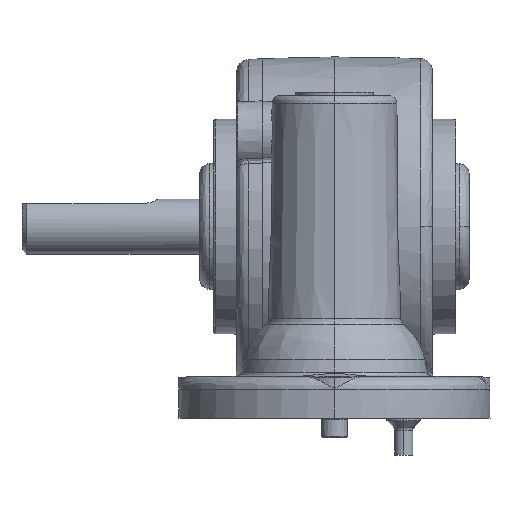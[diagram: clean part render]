
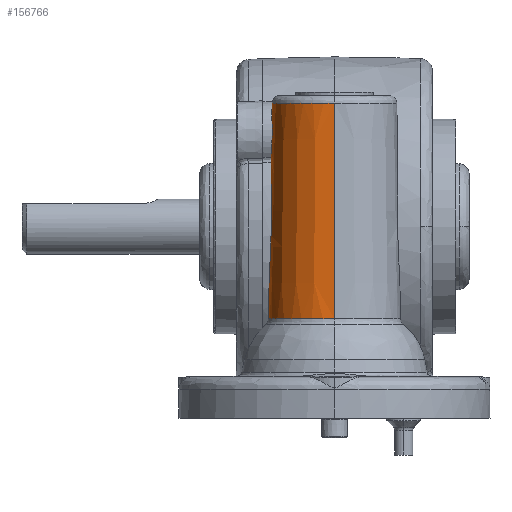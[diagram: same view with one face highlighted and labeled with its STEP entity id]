
A CAD part, front view. The second image highlights one B-rep face of the part: STEP entity #156766.
In plain terms, the highlighted conical face has half-angle 0.981 degrees and reference radius 10.784 mm.
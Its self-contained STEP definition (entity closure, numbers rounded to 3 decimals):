
#217 = VERTEX_POINT ( 'NONE', #82026 ) ;
#2080 = ORIENTED_EDGE ( 'NONE', *, *, #138192, .T. ) ;
#2755 = CARTESIAN_POINT ( 'NONE',  ( -10.705, -25.4, -10.42 ) ) ;
#3544 = CARTESIAN_POINT ( 'NONE',  ( -10.359, -26.062, 8.705 ) ) ;
#4385 = CARTESIAN_POINT ( 'NONE',  ( -10.267, -26.342, 12.667 ) ) ;
#7362 = CARTESIAN_POINT ( 'NONE',  ( -10.333, -25.463, 11.246 ) ) ;
#7903 = DIRECTION ( 'NONE',  ( -0.017, 0., -1. ) ) ;
#8964 = CARTESIAN_POINT ( 'NONE',  ( -10.334, -25.439, 11.211 ) ) ;
#10643 = ORIENTED_EDGE ( 'NONE', *, *, #27218, .T. ) ;
#12880 = DIRECTION ( 'NONE',  ( 0., 0., -1. ) ) ;
#15884 = VERTEX_POINT ( 'NONE', #69864 ) ;
#16567 = CARTESIAN_POINT ( 'NONE',  ( -10.314, -25.885, 11.803 ) ) ;
#16880 = CARTESIAN_POINT ( 'NONE',  ( -10.478, -25.4, 2.845 ) ) ;
#17374 = CARTESIAN_POINT ( 'NONE',  ( -10.174, -26.766, 15.231 ) ) ;
#18245 = CARTESIAN_POINT ( 'NONE',  ( -10.335, -25.417, 11.173 ) ) ;
#19574 = CARTESIAN_POINT ( 'NONE',  ( -10.335, -25.417, 11.173 ) ) ;
#20584 = CARTESIAN_POINT ( 'NONE',  ( -10.211, -25.81, 17.979 ) ) ;
#22236 = AXIS2_PLACEMENT_3D ( 'NONE', #121977, #37246, #160963 ) ;
#27218 = EDGE_CURVE ( 'NONE', #64243, #117733, #114725, .T. ) ;
#27236 = VERTEX_POINT ( 'NONE', #93297 ) ;
#29532 = CARTESIAN_POINT ( 'NONE',  ( -10.291, -27.466, 1.751 ) ) ;
#36929 = ORIENTED_EDGE ( 'NONE', *, *, #112439, .T. ) ;
#37214 = DIRECTION ( 'NONE',  ( 0., -1., 0. ) ) ;
#37246 = DIRECTION ( 'NONE',  ( 0., 0., -1. ) ) ;
#40030 = DIRECTION ( 'NONE',  ( 0., -0.017, -1. ) ) ;
#40499 = EDGE_CURVE ( 'NONE', #83460, #27236, #119387, .T. ) ;
#41739 = CARTESIAN_POINT ( 'NONE',  ( -10.234, -26.562, 13.288 ) ) ;
#42483 = CARTESIAN_POINT ( 'NONE',  ( -10.338, -27.462, -0.918 ) ) ;
#46353 = DIRECTION ( 'NONE',  ( 0., 0., 1. ) ) ;
#52107 = EDGE_CURVE ( 'NONE', #68924, #81610, #58520, .T. ) ;
#53867 = CARTESIAN_POINT ( 'NONE',  ( -10.299, -27.296, 3.51 ) ) ;
#54181 = EDGE_CURVE ( 'NONE', #60827, #15884, #90434, .T. ) ;
#58520 = B_SPLINE_CURVE_WITH_KNOTS ( 'NONE', 3,
 ( #18245, #67738, #145105, #144288 ),
 .UNSPECIFIED., .F., .F.,
 ( 4, 4 ),
 ( 0., 1. ),
 .UNSPECIFIED. ) ;
#60827 = VERTEX_POINT ( 'NONE', #98099 ) ;
#64243 = VERTEX_POINT ( 'NONE', #142475 ) ;
#65510 = ORIENTED_EDGE ( 'NONE', *, *, #52107, .T. ) ;
#66185 = AXIS2_PLACEMENT_3D ( 'NONE', #83042, #12880, #37214 ) ;
#66799 = EDGE_LOOP ( 'NONE', ( #128126, #2080, #87396, #70434, #129673, #65510, #68438, #10643, #36929 ) ) ;
#66906 = CARTESIAN_POINT ( 'NONE',  ( -10.173, -26.733, 15.555 ) ) ;
#67180 = CARTESIAN_POINT ( 'NONE',  ( -10.784, -25.4, -15.072 ) ) ;
#67738 = CARTESIAN_POINT ( 'NONE',  ( -10.339, -25.42, 10.909 ) ) ;
#68438 = ORIENTED_EDGE ( 'NONE', *, *, #90667, .F. ) ;
#68924 = VERTEX_POINT ( 'NONE', #102924 ) ;
#69864 = CARTESIAN_POINT ( 'NONE',  ( 0., -36.184, -15.072 ) ) ;
#70434 = ORIENTED_EDGE ( 'NONE', *, *, #111362, .F. ) ;
#79078 = CARTESIAN_POINT ( 'NONE',  ( -10.343, -26.574, 6.987 ) ) ;
#79117 = CARTESIAN_POINT ( 'NONE',  ( -10.194, -26.749, 14.245 ) ) ;
#79883 = CARTESIAN_POINT ( 'NONE',  ( -10.466, -27.109, -4.465 ) ) ;
#81610 = VERTEX_POINT ( 'NONE', #130927 ) ;
#82026 = CARTESIAN_POINT ( 'NONE',  ( -10.333, -25.491, 11.28 ) ) ;
#82353 = CARTESIAN_POINT ( 'NONE',  ( -10.195, -26.288, 17.127 ) ) ;
#83042 = CARTESIAN_POINT ( 'NONE',  ( 0., -25.4, 20.139 ) ) ;
#83460 = VERTEX_POINT ( 'NONE', #110656 ) ;
#84456 = FACE_OUTER_BOUND ( 'NONE', #66799, .T. ) ;
#85566 = CARTESIAN_POINT ( 'NONE',  ( -10.202, -26.145, 17.42 ) ) ;
#87396 = ORIENTED_EDGE ( 'NONE', *, *, #40499, .T. ) ;
#87868 = VECTOR ( 'NONE', #7903, 1000. ) ;
#90434 = LINE ( 'NONE', #151507, #116257 ) ;
#90667 = EDGE_CURVE ( 'NONE', #64243, #81610, #118678, .T. ) ;
#91353 = CARTESIAN_POINT ( 'NONE',  ( -10.218, -26.643, 13.603 ) ) ;
#92217 = CIRCLE ( 'NONE', #66185, 10.181 ) ;
#92386 = CONICAL_SURFACE ( 'NONE', #22236, 10.784, 0.017 ) ;
#93297 = CARTESIAN_POINT ( 'NONE',  ( -10.209, -25.4, 18.496 ) ) ;
#94572 = CARTESIAN_POINT ( 'NONE',  ( -10.326, -25.701, 11.534 ) ) ;
#95235 = CARTESIAN_POINT ( 'NONE',  ( 0., -25.4, -15.072 ) ) ;
#98099 = CARTESIAN_POINT ( 'NONE',  ( 0., -35.581, 20.139 ) ) ;
#101938 = CARTESIAN_POINT ( 'NONE',  ( -10.427, -27.24, -3.589 ) ) ;
#102924 = CARTESIAN_POINT ( 'NONE',  ( -10.335, -25.417, 11.173 ) ) ;
#104690 = CARTESIAN_POINT ( 'NONE',  ( -10.705, -25.4, -10.42 ) ) ;
#110075 = CARTESIAN_POINT ( 'NONE',  ( -10.214, -25.616, 18.247 ) ) ;
#110656 = CARTESIAN_POINT ( 'NONE',  ( -10.181, -25.4, 20.139 ) ) ;
#110701 = EDGE_CURVE ( 'NONE', #68924, #217, #137890, .T. ) ;
#111362 = EDGE_CURVE ( 'NONE', #217, #27236, #118593, .T. ) ;
#112439 = EDGE_CURVE ( 'NONE', #117733, #15884, #127573, .T. ) ;
#114725 = B_SPLINE_CURVE_WITH_KNOTS ( 'NONE', 1,
 ( #104690, #154353 ),
 .UNSPECIFIED., .F., .F.,
 ( 2, 2 ),
 ( 0., 1. ),
 .UNSPECIFIED. ) ;
#115863 = CARTESIAN_POINT ( 'NONE',  ( -10.284, -26.206, 12.369 ) ) ;
#116257 = VECTOR ( 'NONE', #40030, 1000. ) ;
#116646 = CARTESIAN_POINT ( 'NONE',  ( -10.177, -26.612, 16.195 ) ) ;
#117733 = VERTEX_POINT ( 'NONE', #67180 ) ;
#118232 = CARTESIAN_POINT ( 'NONE',  ( -10.333, -25.491, 11.28 ) ) ;
#118593 = B_SPLINE_CURVE_WITH_KNOTS ( 'NONE', 3,
 ( #118232, #94572, #16567, #115863, #4385, #41739, #91353, #79117, #128816, #17374, #66906, #116646, #159654, #82353, #85566, #20584, #110075, #135286 ),
 .UNSPECIFIED., .F., .F.,
 ( 4, 2, 2, 2, 2, 2, 2, 2, 4 ),
 ( 0., 0.001, 0.002, 0.003, 0.004, 0.005, 0.006, 0.007, 0.008 ),
 .UNSPECIFIED. ) ;
#118678 = B_SPLINE_CURVE_WITH_KNOTS ( 'NONE', 3,
 ( #2755, #152380, #154006, #79883, #101938, #151595, #42483, #29532, #53867, #127984, #79078, #3544, #129566, #153203 ),
 .UNSPECIFIED., .F., .F.,
 ( 4, 2, 2, 2, 2, 2, 4 ),
 ( 0., 0.005, 0.008, 0.011, 0.016, 0.019, 0.021 ),
 .UNSPECIFIED. ) ;
#119387 = LINE ( 'NONE', #16880, #87868 ) ;
#121977 = CARTESIAN_POINT ( 'NONE',  ( 0., -25.4, -15.072 ) ) ;
#127573 = CIRCLE ( 'NONE', #145679, 10.784 ) ;
#127984 = CARTESIAN_POINT ( 'NONE',  ( -10.33, -26.787, 6.121 ) ) ;
#128126 = ORIENTED_EDGE ( 'NONE', *, *, #54181, .F. ) ;
#128816 = CARTESIAN_POINT ( 'NONE',  ( -10.184, -26.774, 14.574 ) ) ;
#129566 = CARTESIAN_POINT ( 'NONE',  ( -10.362, -25.764, 9.549 ) ) ;
#129673 = ORIENTED_EDGE ( 'NONE', *, *, #110701, .F. ) ;
#130927 = CARTESIAN_POINT ( 'NONE',  ( -10.348, -25.426, 10.379 ) ) ;
#135286 = CARTESIAN_POINT ( 'NONE',  ( -10.209, -25.4, 18.496 ) ) ;
#137890 = B_SPLINE_CURVE_WITH_KNOTS ( 'NONE', 3,
 ( #19574, #8964, #7362, #158657 ),
 .UNSPECIFIED., .F., .F.,
 ( 4, 4 ),
 ( 0., 0. ),
 .UNSPECIFIED. ) ;
#138192 = EDGE_CURVE ( 'NONE', #60827, #83460, #92217, .T. ) ;
#142475 = CARTESIAN_POINT ( 'NONE',  ( -10.705, -25.4, -10.42 ) ) ;
#144288 = CARTESIAN_POINT ( 'NONE',  ( -10.348, -25.426, 10.379 ) ) ;
#145105 = CARTESIAN_POINT ( 'NONE',  ( -10.344, -25.423, 10.644 ) ) ;
#145679 = AXIS2_PLACEMENT_3D ( 'NONE', #95235, #46353, #145699 ) ;
#145699 = DIRECTION ( 'NONE',  ( 0., -1., 0. ) ) ;
#151507 = CARTESIAN_POINT ( 'NONE',  ( 0., -36.184, -15.072 ) ) ;
#151595 = CARTESIAN_POINT ( 'NONE',  ( -10.363, -27.416, -1.817 ) ) ;
#152380 = CARTESIAN_POINT ( 'NONE',  ( -10.676, -26.081, -8.761 ) ) ;
#153203 = CARTESIAN_POINT ( 'NONE',  ( -10.348, -25.426, 10.379 ) ) ;
#154006 = CARTESIAN_POINT ( 'NONE',  ( -10.586, -26.591, -7.066 ) ) ;
#154353 = CARTESIAN_POINT ( 'NONE',  ( -10.784, -25.4, -15.072 ) ) ;
#156766 = ADVANCED_FACE ( 'NONE', ( #84456 ), #92386, .T. ) ;
#158657 = CARTESIAN_POINT ( 'NONE',  ( -10.333, -25.491, 11.28 ) ) ;
#159654 = CARTESIAN_POINT ( 'NONE',  ( -10.183, -26.521, 16.514 ) ) ;
#160963 = DIRECTION ( 'NONE',  ( 0., -1., 0. ) ) ;
